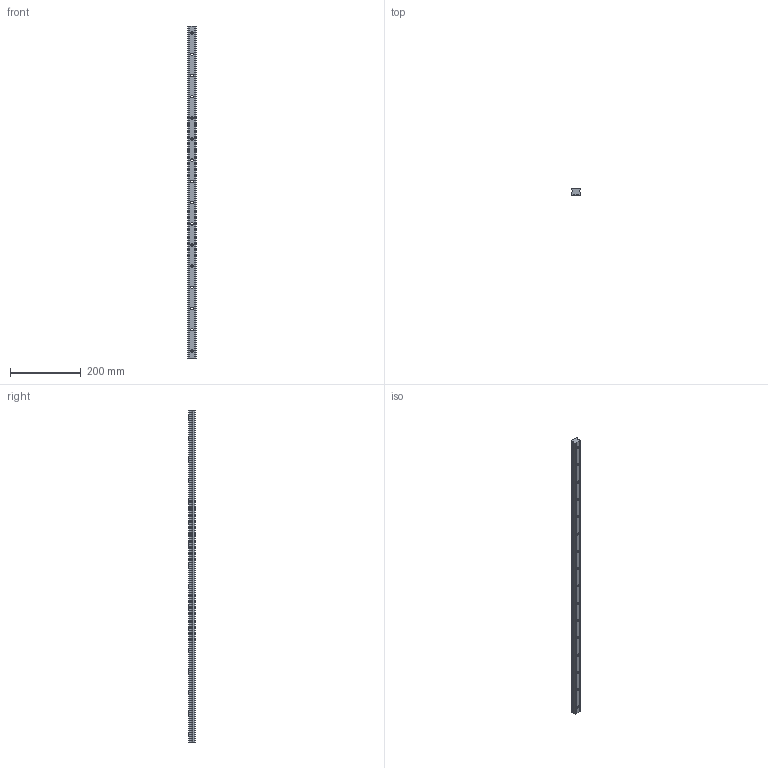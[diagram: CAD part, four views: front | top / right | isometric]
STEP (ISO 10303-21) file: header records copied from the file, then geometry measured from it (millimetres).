
FILE_DESCRIPTION (( 'STEP AP203' ), '1' );
FILE_NAME ('L1016.BL25-0940.step', '2019-06-12T12:06:11', ( '' ), ( '' ), 'SwSTEP 2.0', 'SolidWorks 2017', '' );
FILE_SCHEMA (( 'CONFIG_CONTROL_DESIGN' ));
Length unit declared in the file: millimetre
Products named in the file (1): L1016.BL25-0940
Bounding box: 23 x 19.2 x 940 mm (x, y, z)
Volume: 346129.8 mm3; surface area: 89567.7 mm2
Topology: 1 solids, 1 shells, 106 faces, 264 edges, 176 vertices
Faces by surface type: cylinder 68, plane 38
Entity records: 3365 total; most frequent: DIRECTION 614, CARTESIAN_POINT 547, ORIENTED_EDGE 528, EDGE_CURVE 264, AXIS2_PLACEMENT_3D 243, VERTEX_POINT 176, EDGE_LOOP 154, CIRCLE 136
